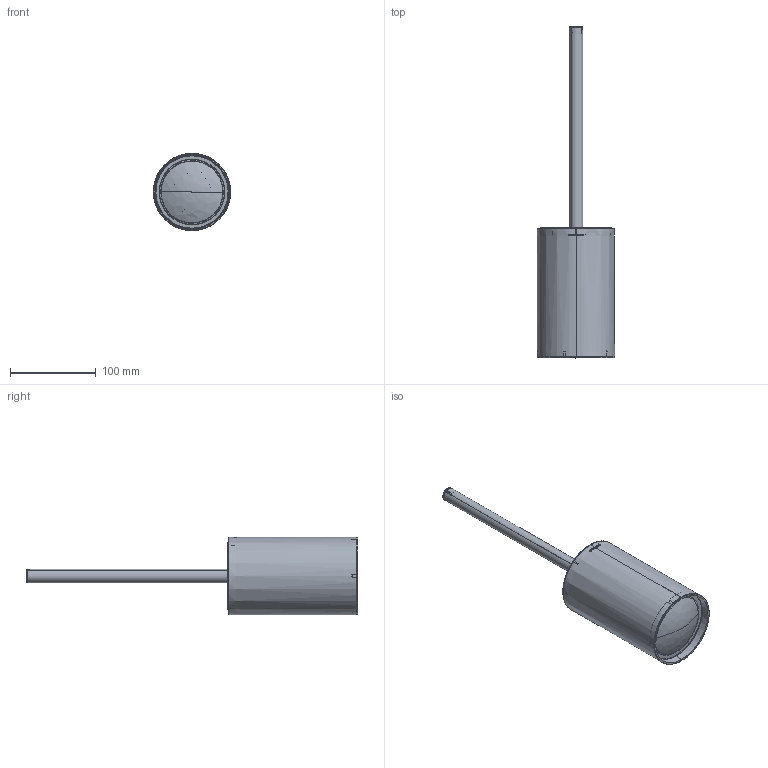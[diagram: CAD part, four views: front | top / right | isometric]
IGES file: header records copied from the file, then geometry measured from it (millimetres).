
Start section: SolidWorks IGES file using analytic representation for surfaces
Global section: file name: G:\Projects\New project\For Marketing\web files\COSMIC\689-Archibest\235##01-W.IGS; native system: SolidWorks 2016; preprocessor: SolidWorks 2016; author: binli; date: 191023.101226; units: millimetre
Bounding box: 90 x 387.1 x 90 mm (x, y, z)
Surface area: 223427.5 mm2 (no closed solid volume)
Topology: 0 solids, 0 shells, 271 faces, 3957 edges, 3945 vertices
Faces by surface type: bspline 176, revolution 95
